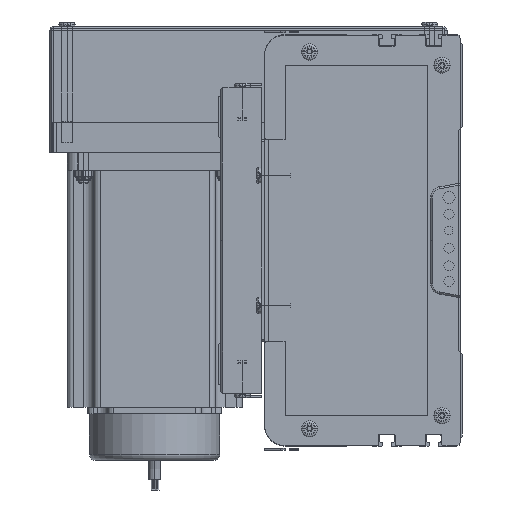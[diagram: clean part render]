
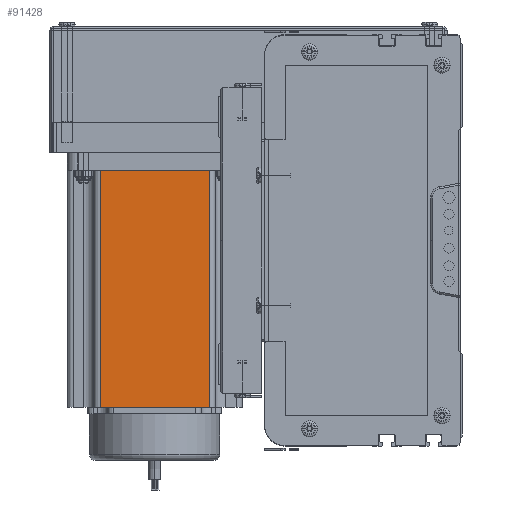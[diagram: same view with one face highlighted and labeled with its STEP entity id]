
A CAD part, left-side view. The second image highlights one B-rep face of the part: STEP entity #91428.
In plain terms, the highlighted planar face has unit normal (-1, 0, 0) as drawn and (0, -1, 0) by its records, which use the part's own axes.
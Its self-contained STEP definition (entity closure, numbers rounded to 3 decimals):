
#88666 = ORIENTED_EDGE ( 'NONE', *, *, #91638, .T. ) ;
#91239 = EDGE_CURVE ( 'NONE', #91387, #91624, #103590, .T. ) ;
#91273 = VERTEX_POINT ( 'NONE', #104332 ) ;
#91274 = EDGE_CURVE ( 'NONE', #91273, #91540, #104912, .T. ) ;
#91299 = EDGE_LOOP ( 'NONE', ( #91430, #91429, #91623, #88666 ) ) ;
#91387 = VERTEX_POINT ( 'NONE', #108130 ) ;
#91428 = ADVANCED_FACE ( 'NONE', ( #108249 ), #108243, .F. ) ;
#91429 = ORIENTED_EDGE ( 'NONE', *, *, #91431, .T. ) ;
#91430 = ORIENTED_EDGE ( 'NONE', *, *, #91239, .T. ) ;
#91431 = EDGE_CURVE ( 'NONE', #91624, #91540, #108213, .T. ) ;
#91540 = VERTEX_POINT ( 'NONE', #108980 ) ;
#91623 = ORIENTED_EDGE ( 'NONE', *, *, #91274, .F. ) ;
#91624 = VERTEX_POINT ( 'NONE', #109018 ) ;
#91638 = EDGE_CURVE ( 'NONE', #91273, #91387, #108780, .T. ) ;
#103588 = CARTESIAN_POINT ( 'NONE',  ( 0., 0., 0. ) ) ;
#103590 = LINE ( 'NONE', #103588, #103944 ) ;
#103943 = DIRECTION ( 'NONE',  ( 1., 0., 0. ) ) ;
#103944 = VECTOR ( 'NONE', #103943, 1000. ) ;
#104300 = DIRECTION ( 'NONE',  ( 1., 0., 0. ) ) ;
#104302 = VECTOR ( 'NONE', #104300, 1000. ) ;
#104305 = CARTESIAN_POINT ( 'NONE',  ( 0., 0., 116.5 ) ) ;
#104332 = CARTESIAN_POINT ( 'NONE',  ( 16.16, 0., 116.5 ) ) ;
#104912 = LINE ( 'NONE', #104305, #104302 ) ;
#108030 = CARTESIAN_POINT ( 'NONE',  ( 0., 0., 116.5 ) ) ;
#108130 = CARTESIAN_POINT ( 'NONE',  ( 16.16, 0., 0. ) ) ;
#108205 = DIRECTION ( 'NONE',  ( 0., 0., 1. ) ) ;
#108206 = VECTOR ( 'NONE', #108205, 1000. ) ;
#108211 = CARTESIAN_POINT ( 'NONE',  ( 69.74, 0., 116.5 ) ) ;
#108213 = LINE ( 'NONE', #108211, #108206 ) ;
#108236 = DIRECTION ( 'NONE',  ( 0., 0., 1. ) ) ;
#108243 = PLANE ( 'NONE',  #108264 ) ;
#108249 = FACE_OUTER_BOUND ( 'NONE', #91299, .T. ) ;
#108257 = DIRECTION ( 'NONE',  ( 0., 1., 0. ) ) ;
#108264 = AXIS2_PLACEMENT_3D ( 'NONE', #108030, #108257, #108236 ) ;
#108777 = DIRECTION ( 'NONE',  ( 0., 0., -1. ) ) ;
#108778 = VECTOR ( 'NONE', #108777, 1000. ) ;
#108779 = CARTESIAN_POINT ( 'NONE',  ( 16.16, 0., 116.5 ) ) ;
#108780 = LINE ( 'NONE', #108779, #108778 ) ;
#108980 = CARTESIAN_POINT ( 'NONE',  ( 69.74, 0., 116.5 ) ) ;
#109018 = CARTESIAN_POINT ( 'NONE',  ( 69.74, 0., 0. ) ) ;
